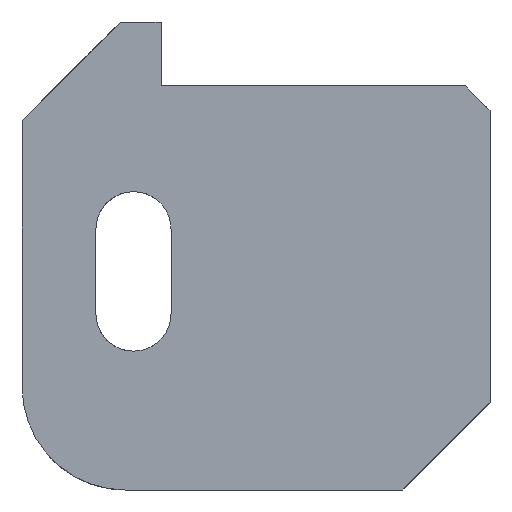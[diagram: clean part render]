
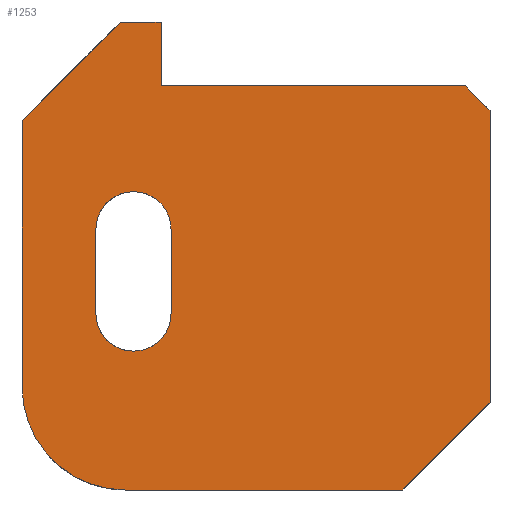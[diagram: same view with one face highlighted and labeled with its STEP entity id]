
A CAD part, left-side view. The second image highlights one B-rep face of the part: STEP entity #1253.
In plain terms, the highlighted planar face has unit normal (-1, 0, 0).
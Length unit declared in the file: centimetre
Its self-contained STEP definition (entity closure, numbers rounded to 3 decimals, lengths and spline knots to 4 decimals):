
#16 = VECTOR ( 'NONE', #1713, 100. ) ;
#21 = EDGE_CURVE ( 'NONE', #936, #442, #988, .T. ) ;
#45 = VERTEX_POINT ( 'NONE', #1022 ) ;
#53 = EDGE_CURVE ( 'NONE', #45, #485, #1660, .T. ) ;
#74 = AXIS2_PLACEMENT_3D ( 'NONE', #497, #1471, #320 ) ;
#85 = VERTEX_POINT ( 'NONE', #858 ) ;
#87 = CARTESIAN_POINT ( 'NONE',  ( 0., 1000., 0. ) ) ;
#91 = VERTEX_POINT ( 'NONE', #1956 ) ;
#112 = VERTEX_POINT ( 'NONE', #355 ) ;
#117 = CARTESIAN_POINT ( 'NONE',  ( 0., 681.5046, 557.0563 ) ) ;
#119 = VECTOR ( 'NONE', #634, 100. ) ;
#124 = DIRECTION ( 'NONE',  ( -1., 0., 0. ) ) ;
#142 = VERTEX_POINT ( 'NONE', #1650 ) ;
#158 = AXIS2_PLACEMENT_3D ( 'NONE', #1197, #2021, #1882 ) ;
#167 = DIRECTION ( 'NONE',  ( 0., 0.707, 0.707 ) ) ;
#188 = CARTESIAN_POINT ( 'NONE',  ( 0., 789.2552, 1000. ) ) ;
#221 = EDGE_CURVE ( 'NONE', #85, #1114, #254, .T. ) ;
#244 = FACE_OUTER_BOUND ( 'NONE', #347, .T. ) ;
#254 = CIRCLE ( 'NONE', #158, 80.3266 ) ;
#298 = VECTOR ( 'NONE', #1060, 100. ) ;
#302 = CARTESIAN_POINT ( 'NONE',  ( 0., 778.9556, 221.0444 ) ) ;
#313 = LINE ( 'NONE', #1589, #119 ) ;
#320 = DIRECTION ( 'NONE',  ( 0., 0., 1. ) ) ;
#330 = EDGE_CURVE ( 'NONE', #91, #435, #313, .T. ) ;
#347 = EDGE_LOOP ( 'NONE', ( #1405, #833, #1900, #703, #889, #1621, #1515, #1434, #2029, #1180 ) ) ;
#351 = CIRCLE ( 'NONE', #1813, 221.0444 ) ;
#355 = CARTESIAN_POINT ( 'NONE',  ( 0., 1000., 221.0444 ) ) ;
#358 = VECTOR ( 'NONE', #1984, 100. ) ;
#370 = VERTEX_POINT ( 'NONE', #1112 ) ;
#405 = PLANE ( 'NONE',  #1273 ) ;
#428 = LINE ( 'NONE', #1418, #16 ) ;
#429 = ORIENTED_EDGE ( 'NONE', *, *, #751, .T. ) ;
#435 = VERTEX_POINT ( 'NONE', #1069 ) ;
#442 = VERTEX_POINT ( 'NONE', #958 ) ;
#452 = CARTESIAN_POINT ( 'NONE',  ( 0., 842.1578, 557.0563 ) ) ;
#485 = VERTEX_POINT ( 'NONE', #1284 ) ;
#497 = CARTESIAN_POINT ( 'NONE',  ( 0., 761.8312, 377.033 ) ) ;
#501 = DIRECTION ( 'NONE',  ( 1., 0., 0. ) ) ;
#523 = CIRCLE ( 'NONE', #74, 80.3266 ) ;
#538 = AXIS2_PLACEMENT_3D ( 'NONE', #982, #501, #828 ) ;
#547 = LINE ( 'NONE', #87, #1983 ) ;
#560 = CARTESIAN_POINT ( 'NONE',  ( 0., 1000., 1000. ) ) ;
#561 = VECTOR ( 'NONE', #167, 100. ) ;
#577 = VERTEX_POINT ( 'NONE', #693 ) ;
#585 = EDGE_CURVE ( 'NONE', #936, #91, #1410, .T. ) ;
#612 = CARTESIAN_POINT ( 'NONE',  ( 0., 189.5893, 1000. ) ) ;
#634 = DIRECTION ( 'NONE',  ( 0., 0., -1. ) ) ;
#640 = DIRECTION ( 'NONE',  ( 0., 0., 1. ) ) ;
#666 = VECTOR ( 'NONE', #674, 100. ) ;
#674 = DIRECTION ( 'NONE',  ( 0., 0.707, -0.707 ) ) ;
#679 = EDGE_CURVE ( 'NONE', #964, #485, #1300, .T. ) ;
#693 = CARTESIAN_POINT ( 'NONE',  ( 0., 681.5046, 377.033 ) ) ;
#703 = ORIENTED_EDGE ( 'NONE', *, *, #585, .F. ) ;
#706 = CIRCLE ( 'NONE', #538, 80.3266 ) ;
#738 = EDGE_CURVE ( 'NONE', #45, #142, #1136, .T. ) ;
#751 = EDGE_CURVE ( 'NONE', #769, #577, #1935, .T. ) ;
#769 = VERTEX_POINT ( 'NONE', #117 ) ;
#828 = DIRECTION ( 'NONE',  ( 0., 0., 1. ) ) ;
#833 = ORIENTED_EDGE ( 'NONE', *, *, #1212, .F. ) ;
#858 = CARTESIAN_POINT ( 'NONE',  ( 0., 761.8312, 296.7064 ) ) ;
#889 = ORIENTED_EDGE ( 'NONE', *, *, #21, .T. ) ;
#912 = CARTESIAN_POINT ( 'NONE',  ( 0., 789.2552, 1000. ) ) ;
#928 = DIRECTION ( 'NONE',  ( 0., 0., -1. ) ) ;
#936 = VERTEX_POINT ( 'NONE', #912 ) ;
#958 = CARTESIAN_POINT ( 'NONE',  ( 0., 1000., 789.2552 ) ) ;
#964 = VERTEX_POINT ( 'NONE', #1587 ) ;
#968 = EDGE_CURVE ( 'NONE', #442, #112, #1737, .T. ) ;
#975 = DIRECTION ( 'NONE',  ( 0., -0.707, 0.707 ) ) ;
#982 = CARTESIAN_POINT ( 'NONE',  ( 0., 761.8312, 557.0563 ) ) ;
#988 = LINE ( 'NONE', #188, #666 ) ;
#999 = ORIENTED_EDGE ( 'NONE', *, *, #1139, .T. ) ;
#1022 = CARTESIAN_POINT ( 'NONE',  ( 0., 0., 810.4107 ) ) ;
#1024 = ORIENTED_EDGE ( 'NONE', *, *, #1120, .T. ) ;
#1055 = DIRECTION ( 'NONE',  ( 1., 0., 0. ) ) ;
#1060 = DIRECTION ( 'NONE',  ( 0., -1., 0. ) ) ;
#1069 = CARTESIAN_POINT ( 'NONE',  ( 0., 702.8776, 863.4323 ) ) ;
#1112 = CARTESIAN_POINT ( 'NONE',  ( 0., 778.9556, 0. ) ) ;
#1114 = VERTEX_POINT ( 'NONE', #1458 ) ;
#1120 = EDGE_CURVE ( 'NONE', #577, #85, #523, .T. ) ;
#1136 = LINE ( 'NONE', #612, #561 ) ;
#1139 = EDGE_CURVE ( 'NONE', #1114, #1695, #1916, .T. ) ;
#1170 = CARTESIAN_POINT ( 'NONE',  ( 0., 0., 1000. ) ) ;
#1180 = ORIENTED_EDGE ( 'NONE', *, *, #53, .F. ) ;
#1196 = EDGE_LOOP ( 'NONE', ( #429, #1024, #1785, #999, #1683 ) ) ;
#1197 = CARTESIAN_POINT ( 'NONE',  ( 0., 761.8312, 377.033 ) ) ;
#1212 = EDGE_CURVE ( 'NONE', #435, #142, #428, .T. ) ;
#1215 = DIRECTION ( 'NONE',  ( 0., 0., -1. ) ) ;
#1253 = ADVANCED_FACE ( 'NONE', ( #1905, #244 ), #405, .F. ) ;
#1262 = CARTESIAN_POINT ( 'NONE',  ( 0., 681.5046, 377.033 ) ) ;
#1273 = AXIS2_PLACEMENT_3D ( 'NONE', #560, #1055, #1215 ) ;
#1284 = CARTESIAN_POINT ( 'NONE',  ( 0., 0., 185.9635 ) ) ;
#1300 = LINE ( 'NONE', #1955, #1513 ) ;
#1323 = EDGE_CURVE ( 'NONE', #112, #370, #351, .T. ) ;
#1342 = CARTESIAN_POINT ( 'NONE',  ( 0., 1000., 1000. ) ) ;
#1371 = EDGE_CURVE ( 'NONE', #370, #964, #547, .T. ) ;
#1405 = ORIENTED_EDGE ( 'NONE', *, *, #738, .T. ) ;
#1410 = LINE ( 'NONE', #1342, #298 ) ;
#1418 = CARTESIAN_POINT ( 'NONE',  ( 0., 702.8776, 863.4323 ) ) ;
#1422 = DIRECTION ( 'NONE',  ( 0., 0., -1. ) ) ;
#1434 = ORIENTED_EDGE ( 'NONE', *, *, #1371, .T. ) ;
#1458 = CARTESIAN_POINT ( 'NONE',  ( 0., 842.1578, 377.033 ) ) ;
#1471 = DIRECTION ( 'NONE',  ( 1., 0., 0. ) ) ;
#1513 = VECTOR ( 'NONE', #975, 100. ) ;
#1515 = ORIENTED_EDGE ( 'NONE', *, *, #1323, .T. ) ;
#1574 = CARTESIAN_POINT ( 'NONE',  ( 0., 1000., 1000. ) ) ;
#1587 = CARTESIAN_POINT ( 'NONE',  ( 0., 185.9635, 0. ) ) ;
#1589 = CARTESIAN_POINT ( 'NONE',  ( 0., 702.8776, 863.4323 ) ) ;
#1621 = ORIENTED_EDGE ( 'NONE', *, *, #968, .T. ) ;
#1640 = VECTOR ( 'NONE', #640, 100. ) ;
#1650 = CARTESIAN_POINT ( 'NONE',  ( 0., 53.0216, 863.4323 ) ) ;
#1660 = LINE ( 'NONE', #1170, #358 ) ;
#1683 = ORIENTED_EDGE ( 'NONE', *, *, #1822, .T. ) ;
#1695 = VERTEX_POINT ( 'NONE', #1873 ) ;
#1713 = DIRECTION ( 'NONE',  ( 0., -1., 0. ) ) ;
#1737 = LINE ( 'NONE', #1574, #1876 ) ;
#1785 = ORIENTED_EDGE ( 'NONE', *, *, #221, .T. ) ;
#1791 = VECTOR ( 'NONE', #928, 100. ) ;
#1813 = AXIS2_PLACEMENT_3D ( 'NONE', #302, #124, #2094 ) ;
#1822 = EDGE_CURVE ( 'NONE', #1695, #769, #706, .T. ) ;
#1864 = DIRECTION ( 'NONE',  ( 0., -1., 0. ) ) ;
#1873 = CARTESIAN_POINT ( 'NONE',  ( 0., 842.1578, 557.0563 ) ) ;
#1876 = VECTOR ( 'NONE', #1422, 100. ) ;
#1882 = DIRECTION ( 'NONE',  ( 0., 0., 1. ) ) ;
#1900 = ORIENTED_EDGE ( 'NONE', *, *, #330, .F. ) ;
#1905 = FACE_BOUND ( 'NONE', #1196, .T. ) ;
#1916 = LINE ( 'NONE', #452, #1640 ) ;
#1935 = LINE ( 'NONE', #1262, #1791 ) ;
#1955 = CARTESIAN_POINT ( 'NONE',  ( 0., 0., 185.9635 ) ) ;
#1956 = CARTESIAN_POINT ( 'NONE',  ( 0., 702.8776, 1000. ) ) ;
#1983 = VECTOR ( 'NONE', #1864, 100. ) ;
#1984 = DIRECTION ( 'NONE',  ( 0., 0., -1. ) ) ;
#2021 = DIRECTION ( 'NONE',  ( 1., 0., 0. ) ) ;
#2029 = ORIENTED_EDGE ( 'NONE', *, *, #679, .T. ) ;
#2094 = DIRECTION ( 'NONE',  ( 0., 0., -1. ) ) ;
